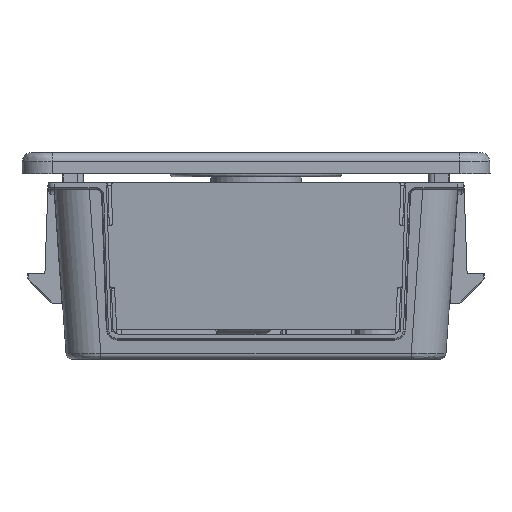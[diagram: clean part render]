
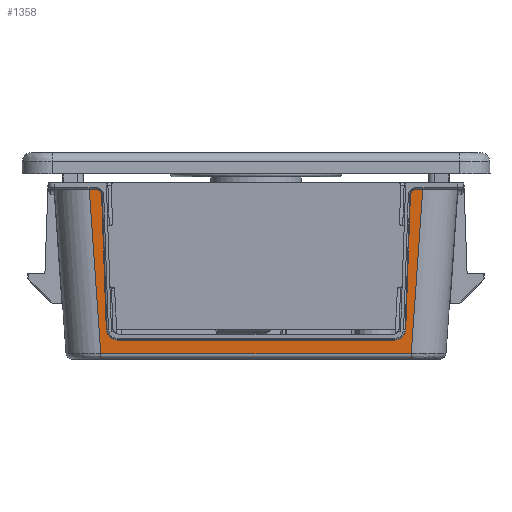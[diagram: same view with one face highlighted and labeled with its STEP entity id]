
A CAD part, front view. The second image highlights one B-rep face of the part: STEP entity #1358.
In plain terms, the highlighted planar face has unit normal (0, -0.998, -0.07).
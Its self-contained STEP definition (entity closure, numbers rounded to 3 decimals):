
#1358=ADVANCED_FACE('',(#25660),#25662,.T.);
#25660=FACE_BOUND('',#25661,.T.);
#25661=EDGE_LOOP('',(#45742,#45743,#45744,#45745,#45746,#45747,#45748,#45749,#45750,
#45751,#45752,#45753));
#25662=PLANE('',#25663);
#25663=AXIS2_PLACEMENT_3D('',#25664,#25665,#25666);
#25664=CARTESIAN_POINT('',(-37.25,-68.,33.));
#25665=DIRECTION('',(0.,-0.998,-0.07));
#25666=DIRECTION('',(-1.,0.,0.));
#45742=ORIENTED_EDGE('',*,*,#55953,.F.);
#45743=ORIENTED_EDGE('',*,*,#55990,.F.);
#45744=ORIENTED_EDGE('',*,*,#55991,.F.);
#45745=ORIENTED_EDGE('',*,*,#55992,.F.);
#45746=ORIENTED_EDGE('',*,*,#55993,.F.);
#45747=ORIENTED_EDGE('',*,*,#55994,.F.);
#45748=ORIENTED_EDGE('',*,*,#55995,.F.);
#45749=ORIENTED_EDGE('',*,*,#55996,.F.);
#45750=ORIENTED_EDGE('',*,*,#55997,.F.);
#45751=ORIENTED_EDGE('',*,*,#55998,.F.);
#45752=ORIENTED_EDGE('',*,*,#55999,.F.);
#45753=ORIENTED_EDGE('',*,*,#55987,.F.);
#55953=EDGE_CURVE('',#64530,#64527,#64532,.T.);
#55987=EDGE_CURVE('',#64527,#64582,#64583,.T.);
#55990=EDGE_CURVE('',#64587,#64530,#64588,.T.);
#55991=EDGE_CURVE('',#64589,#64587,#64590,.T.);
#55992=EDGE_CURVE('',#64591,#64589,#64592,.T.);
#55993=EDGE_CURVE('',#64593,#64591,#64594,.T.);
#55994=EDGE_CURVE('',#64595,#64593,#64596,.T.);
#55995=EDGE_CURVE('',#64597,#64595,#64598,.T.);
#55996=EDGE_CURVE('',#64599,#64597,#64600,.T.);
#55997=EDGE_CURVE('',#64601,#64599,#64602,.T.);
#55998=EDGE_CURVE('',#64603,#64601,#64604,.T.);
#55999=EDGE_CURVE('',#64582,#64603,#64605,.T.);
#64527=VERTEX_POINT('',#103398);
#64530=VERTEX_POINT('',#103432);
#64532=LINE('',#103437,#103438);
#64582=VERTEX_POINT('',#103712);
#64583=LINE('',#103713,#103714);
#64587=VERTEX_POINT('',#103749);
#64588=LINE('',#103750,#103751);
#64589=VERTEX_POINT('',#103753);
#64590=LINE('',#103754,#103755);
#64591=VERTEX_POINT('',#103757);
#64592=B_SPLINE_CURVE_WITH_KNOTS('',3,
(#103758,#103759,#103760,#103761,#103762,#103763,#103764,#103765,#103766,#103767,
#103768,#103769,#103770,#103771,#103772,#103773,#103774,#103775,#103776,#103777,
#103778,#103779,#103780,#103781,#103782,#103783,#103784,#103785),
.UNSPECIFIED.,.F.,.F.,
(4,2,2,2,2,2,2,2,2,2,2,2,2,4),
(0.,0.082,0.164,0.245,0.327,0.409,
0.491,0.573,0.655,0.736,0.818,
0.9,0.982,1.),
.UNSPECIFIED.);
#64593=VERTEX_POINT('',#103786);
#64594=LINE('',#103787,#103788);
#64595=VERTEX_POINT('',#103790);
#64596=CIRCLE('',#103791,3.7);
#64597=VERTEX_POINT('',#103795);
#64598=LINE('',#103796,#103797);
#64599=VERTEX_POINT('',#103799);
#64600=CIRCLE('',#103800,3.7);
#64601=VERTEX_POINT('',#103804);
#64602=LINE('',#103805,#103806);
#64603=VERTEX_POINT('',#103808);
#64604=B_SPLINE_CURVE_WITH_KNOTS('',3,
(#103809,#103810,#103811,#103812,#103813,#103814,#103815,#103816,#103817,#103818,
#103819,#103820,#103821,#103822,#103823,#103824,#103825,#103826,#103827,#103828,
#103829,#103830,#103831,#103832,#103833,#103834,#103835,#103836),
.UNSPECIFIED.,.F.,.F.,
(4,2,2,2,2,2,2,2,2,2,2,2,2,4),
(0.,0.082,0.164,0.245,0.327,0.409,
0.491,0.573,0.655,0.736,0.818,
0.9,0.982,1.),
.UNSPECIFIED.);
#64605=LINE('',#103837,#103838);
#103398=CARTESIAN_POINT('',(-21.831,-64.053,-23.44));
#103432=CARTESIAN_POINT('',(80.831,-64.053,-23.44));
#103437=CARTESIAN_POINT('',(80.831,-64.053,-23.44));
#103438=VECTOR('',#103439,1.);
#103439=DIRECTION('',(-1.,0.,0.));
#103712=CARTESIAN_POINT('',(-25.625,-67.847,30.814));
#103713=CARTESIAN_POINT('',(-21.831,-64.053,-23.44));
#103714=VECTOR('',#103715,1.);
#103715=DIRECTION('',(-0.07,-0.07,0.995));
#103749=CARTESIAN_POINT('',(84.625,-67.847,30.814));
#103750=CARTESIAN_POINT('',(84.625,-67.847,30.814));
#103751=VECTOR('',#103752,1.);
#103752=DIRECTION('',(-0.07,0.07,-0.995));
#103753=CARTESIAN_POINT('',(82.357,-67.847,30.814));
#103754=CARTESIAN_POINT('',(82.357,-67.847,30.814));
#103755=VECTOR('',#103756,1.);
#103756=DIRECTION('',(1.,0.,0.));
#103757=CARTESIAN_POINT('',(80.558,-67.726,29.077));
#103758=CARTESIAN_POINT('',(80.558,-67.726,29.077));
#103759=CARTESIAN_POINT('',(80.563,-67.731,29.152));
#103760=CARTESIAN_POINT('',(80.568,-67.736,29.227));
#103761=CARTESIAN_POINT('',(80.592,-67.747,29.376));
#103762=CARTESIAN_POINT('',(80.609,-67.752,29.45));
#103763=CARTESIAN_POINT('',(80.651,-67.762,29.594));
#103764=CARTESIAN_POINT('',(80.677,-67.767,29.666));
#103765=CARTESIAN_POINT('',(80.738,-67.776,29.803));
#103766=CARTESIAN_POINT('',(80.772,-67.781,29.871));
#103767=CARTESIAN_POINT('',(80.849,-67.79,30.));
#103768=CARTESIAN_POINT('',(80.892,-67.795,30.063));
#103769=CARTESIAN_POINT('',(80.985,-67.803,30.181));
#103770=CARTESIAN_POINT('',(81.035,-67.807,30.238));
#103771=CARTESIAN_POINT('',(81.142,-67.814,30.344));
#103772=CARTESIAN_POINT('',(81.199,-67.818,30.394));
#103773=CARTESIAN_POINT('',(81.318,-67.824,30.486));
#103774=CARTESIAN_POINT('',(81.381,-67.827,30.528));
#103775=CARTESIAN_POINT('',(81.511,-67.832,30.604));
#103776=CARTESIAN_POINT('',(81.579,-67.835,30.639));
#103777=CARTESIAN_POINT('',(81.717,-67.839,30.698));
#103778=CARTESIAN_POINT('',(81.789,-67.841,30.723));
#103779=CARTESIAN_POINT('',(81.933,-67.844,30.765));
#103780=CARTESIAN_POINT('',(82.007,-67.845,30.781));
#103781=CARTESIAN_POINT('',(82.156,-67.846,30.804));
#103782=CARTESIAN_POINT('',(82.231,-67.847,30.811));
#103783=CARTESIAN_POINT('',(82.323,-67.847,30.814));
#103784=CARTESIAN_POINT('',(82.34,-67.847,30.814));
#103785=CARTESIAN_POINT('',(82.357,-67.847,30.814));
#103786=CARTESIAN_POINT('',(79.002,-64.618,-15.371));
#103787=CARTESIAN_POINT('',(79.002,-64.618,-15.371));
#103788=VECTOR('',#103789,1.);
#103789=DIRECTION('',(0.035,-0.07,0.997));
#103790=CARTESIAN_POINT('',(75.304,-64.368,-18.934));
#103791=AXIS2_PLACEMENT_3D('',#103792,#103793,#103794);
#103792=CARTESIAN_POINT('',(75.304,-64.627,-15.243));
#103793=DIRECTION('',(0.,-0.998,-0.07));
#103794=DIRECTION('',(0.,0.07,-0.998));
#103795=CARTESIAN_POINT('',(-16.304,-64.368,-18.934));
#103796=CARTESIAN_POINT('',(-16.304,-64.368,-18.934));
#103797=VECTOR('',#103798,1.);
#103798=DIRECTION('',(1.,0.,0.));
#103799=CARTESIAN_POINT('',(-20.002,-64.618,-15.371));
#103800=AXIS2_PLACEMENT_3D('',#103801,#103802,#103803);
#103801=CARTESIAN_POINT('',(-16.304,-64.627,-15.243));
#103802=DIRECTION('',(0.,-0.998,-0.07));
#103803=DIRECTION('',(-0.999,0.002,-0.035));
#103804=CARTESIAN_POINT('',(-21.558,-67.726,29.077));
#103805=CARTESIAN_POINT('',(-21.558,-67.726,29.077));
#103806=VECTOR('',#103807,1.);
#103807=DIRECTION('',(0.035,0.07,-0.997));
#103808=CARTESIAN_POINT('',(-23.357,-67.847,30.814));
#103809=CARTESIAN_POINT('',(-23.357,-67.847,30.814));
#103810=CARTESIAN_POINT('',(-23.282,-67.847,30.812));
#103811=CARTESIAN_POINT('',(-23.206,-67.847,30.809));
#103812=CARTESIAN_POINT('',(-23.057,-67.845,30.79));
#103813=CARTESIAN_POINT('',(-22.982,-67.844,30.776));
#103814=CARTESIAN_POINT('',(-22.837,-67.842,30.739));
#103815=CARTESIAN_POINT('',(-22.764,-67.84,30.715));
#103816=CARTESIAN_POINT('',(-22.625,-67.836,30.66));
#103817=CARTESIAN_POINT('',(-22.556,-67.834,30.628));
#103818=CARTESIAN_POINT('',(-22.424,-67.829,30.555));
#103819=CARTESIAN_POINT('',(-22.36,-67.826,30.514));
#103820=CARTESIAN_POINT('',(-22.238,-67.82,30.426));
#103821=CARTESIAN_POINT('',(-22.18,-67.817,30.378));
#103822=CARTESIAN_POINT('',(-22.07,-67.809,30.275));
#103823=CARTESIAN_POINT('',(-22.018,-67.806,30.219));
#103824=CARTESIAN_POINT('',(-21.922,-67.797,30.103));
#103825=CARTESIAN_POINT('',(-21.877,-67.793,30.042));
#103826=CARTESIAN_POINT('',(-21.797,-67.784,29.915));
#103827=CARTESIAN_POINT('',(-21.76,-67.78,29.848));
#103828=CARTESIAN_POINT('',(-21.696,-67.77,29.712));
#103829=CARTESIAN_POINT('',(-21.668,-67.765,29.642));
#103830=CARTESIAN_POINT('',(-21.622,-67.755,29.499));
#103831=CARTESIAN_POINT('',(-21.603,-67.75,29.425));
#103832=CARTESIAN_POINT('',(-21.575,-67.74,29.277));
#103833=CARTESIAN_POINT('',(-21.565,-67.734,29.202));
#103834=CARTESIAN_POINT('',(-21.559,-67.728,29.11));
#103835=CARTESIAN_POINT('',(-21.559,-67.727,29.093));
#103836=CARTESIAN_POINT('',(-21.558,-67.726,29.077));
#103837=CARTESIAN_POINT('',(-25.625,-67.847,30.814));
#103838=VECTOR('',#103839,1.);
#103839=DIRECTION('',(1.,0.,0.));
